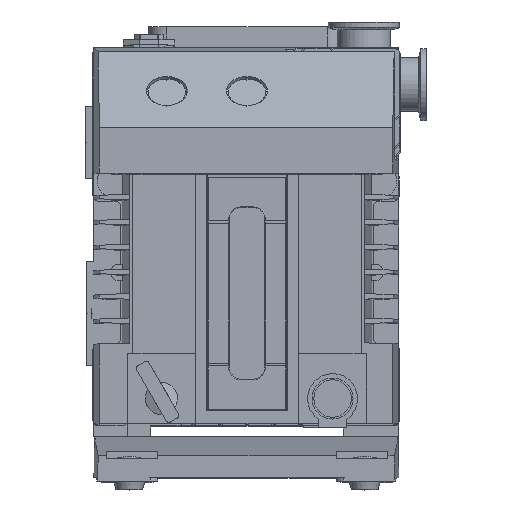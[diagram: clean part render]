
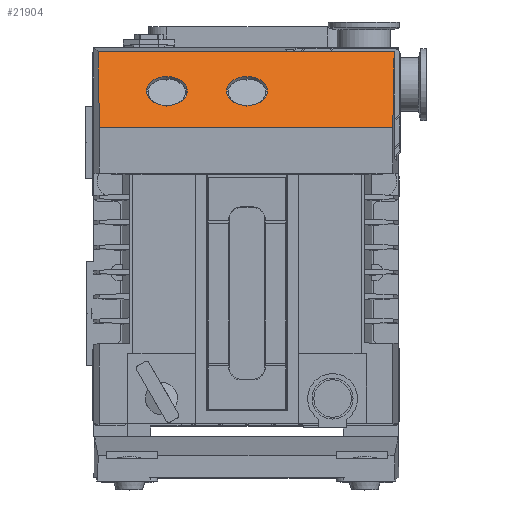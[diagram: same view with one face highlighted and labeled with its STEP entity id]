
A CAD part, top view. The second image highlights one B-rep face of the part: STEP entity #21904.
In plain terms, the highlighted planar face has unit normal (0, 0.707, 0.707) as drawn and (-0.707, 0.707, 0) by its records, which use the part's own axes.
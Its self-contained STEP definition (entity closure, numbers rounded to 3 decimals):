
#16574=DIRECTION('',(0.,0.,1.));
#16575=VECTOR('',#16574,164.559);
#16576=CARTESIAN_POINT('',(-184.5,81.,-82.78));
#16577=LINE('',#16576,#16575);
#16582=DIRECTION('',(0.,0.,1.));
#16583=VECTOR('',#16582,166.044);
#16584=CARTESIAN_POINT('',(-141.978,123.522,
-83.522));
#16585=LINE('',#16584,#16583);
#16586=DIRECTION('',(0.707,0.707,0.012));
#16587=VECTOR('',#16586,60.139);
#16588=CARTESIAN_POINT('',(-184.5,81.,81.78));
#16589=LINE('',#16588,#16587);
#16590=DIRECTION('',(0.707,0.707,-0.012));
#16591=VECTOR('',#16590,60.139);
#16592=CARTESIAN_POINT('',(-184.5,81.,-82.78));
#16593=LINE('',#16592,#16591);
#16594=CARTESIAN_POINT('',(-163.994,101.506,0.));
#16595=DIRECTION('',(-0.707,0.707,0.));
#16596=DIRECTION('',(0.707,0.707,0.));
#16597=AXIS2_PLACEMENT_3D('',#16594,#16595,#16596);
#16599=CARTESIAN_POINT('',(-163.994,101.506,0.));
#16600=DIRECTION('',(-0.707,0.707,0.));
#16601=DIRECTION('',(-0.707,-0.707,0.));
#16602=AXIS2_PLACEMENT_3D('',#16599,#16600,#16601);
#16604=CARTESIAN_POINT('',(-163.994,101.506,-45.));
#16605=DIRECTION('',(-0.707,0.707,0.));
#16606=DIRECTION('',(0.707,0.707,0.));
#16607=AXIS2_PLACEMENT_3D('',#16604,#16605,#16606);
#16609=CARTESIAN_POINT('',(-163.994,101.506,-45.));
#16610=DIRECTION('',(-0.707,0.707,0.));
#16611=DIRECTION('',(-0.707,-0.707,0.));
#16612=AXIS2_PLACEMENT_3D('',#16609,#16610,#16611);
#17997=CARTESIAN_POINT('',(-141.978,123.522,
-83.522));
#17998=CARTESIAN_POINT('',(-141.978,123.522,
82.522));
#17999=VERTEX_POINT('',#17997);
#18000=VERTEX_POINT('',#17998);
#18357=CARTESIAN_POINT('',(-184.5,81.,-82.78));
#18358=CARTESIAN_POINT('',(-184.5,81.,81.78));
#18359=VERTEX_POINT('',#18357);
#18360=VERTEX_POINT('',#18358);
#18714=CARTESIAN_POINT('',(-155.862,109.638,0.));
#18715=CARTESIAN_POINT('',(-172.126,93.374,0.));
#18716=VERTEX_POINT('',#18714);
#18717=VERTEX_POINT('',#18715);
#18732=CARTESIAN_POINT('',(-155.862,109.638,-45.));
#18733=CARTESIAN_POINT('',(-172.126,93.374,-45.));
#18734=VERTEX_POINT('',#18732);
#18735=VERTEX_POINT('',#18733);
#21881=CARTESIAN_POINT('',(-184.5,81.,-103.1));
#21882=DIRECTION('',(0.707,-0.707,0.));
#21883=DIRECTION('',(0.707,0.707,0.));
#21884=AXIS2_PLACEMENT_3D('',#21881,#21882,#21883);
#21885=PLANE('',#21884);
#21886=ORIENTED_EDGE('',*,*,#21354,.T.);
#21887=ORIENTED_EDGE('',*,*,#21378,.F.);
#21888=ORIENTED_EDGE('',*,*,#21874,.F.);
#21889=ORIENTED_EDGE('',*,*,#21310,.T.);
#21890=EDGE_LOOP('',(#21886,#21887,#21888,#21889));
#21891=FACE_OUTER_BOUND('',#21890,.F.);
#21893=ORIENTED_EDGE('',*,*,#21892,.T.);
#21895=ORIENTED_EDGE('',*,*,#21894,.T.);
#21896=EDGE_LOOP('',(#21893,#21895));
#21897=FACE_BOUND('',#21896,.F.);
#21899=ORIENTED_EDGE('',*,*,#21898,.T.);
#21901=ORIENTED_EDGE('',*,*,#21900,.T.);
#21902=EDGE_LOOP('',(#21899,#21901));
#21903=FACE_BOUND('',#21902,.F.);
#16598=CIRCLE('',#16597,11.5);
#16603=CIRCLE('',#16602,11.5);
#16608=CIRCLE('',#16607,11.5);
#16613=CIRCLE('',#16612,11.5);
#21310=EDGE_CURVE('',#18359,#17999,#16593,.T.);
#21354=EDGE_CURVE('',#17999,#18000,#16585,.T.);
#21378=EDGE_CURVE('',#18360,#18000,#16589,.T.);
#21874=EDGE_CURVE('',#18359,#18360,#16577,.T.);
#21892=EDGE_CURVE('',#18716,#18717,#16598,.T.);
#21894=EDGE_CURVE('',#18717,#18716,#16603,.T.);
#21898=EDGE_CURVE('',#18734,#18735,#16608,.T.);
#21900=EDGE_CURVE('',#18735,#18734,#16613,.T.);
#21904=ADVANCED_FACE('',(#21891,#21897,#21903),#21885,.F.);
